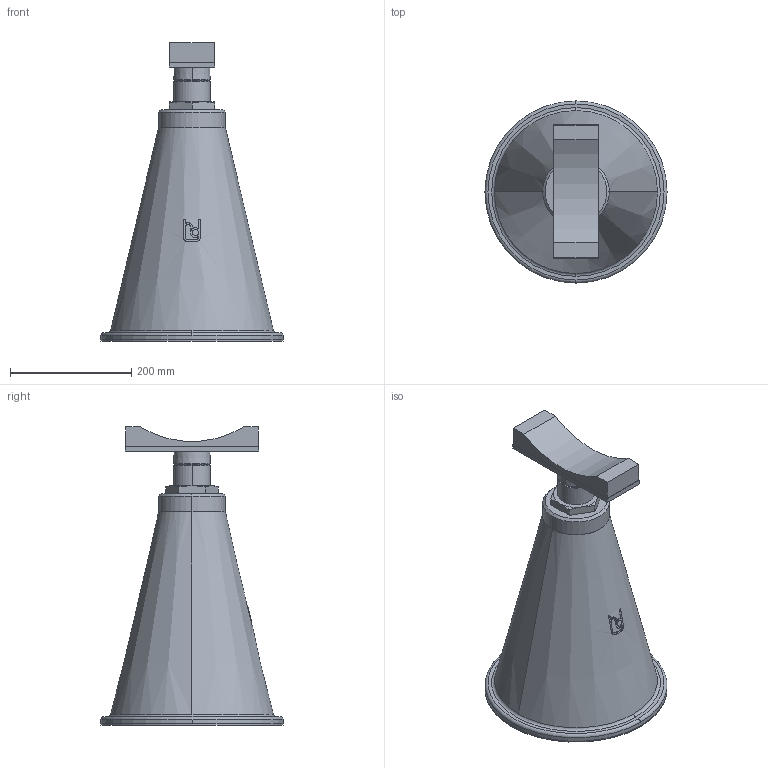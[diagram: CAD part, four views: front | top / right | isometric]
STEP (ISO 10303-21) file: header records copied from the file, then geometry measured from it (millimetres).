
FILE_DESCRIPTION(('STEP AP214'),'1');
FILE_NAME('RSRFB_DN300.stp','2018-06-26T07:31:52',(' '),(' '),'Spatial InterOp 3D',' ',' ');
FILE_SCHEMA(('automotive_design'));
Length unit declared in the file: millimetre
Products named in the file (6): 1; 2; 5; 6; 3; 4
Bounding box: 300 x 300 x 491.12 mm (x, y, z)
Volume: 12633770.3 mm3; surface area: 628083.2 mm2
Topology: 6 solids, 7 shells, 118 faces, 278 edges, 178 vertices
Faces by surface type: plane 51, cylinder 34, cone 25, torus 8
Entity records: 4730 total; most frequent: CARTESIAN_POINT 931, DIRECTION 589, ORIENTED_EDGE 556, EDGE_CURVE 278, AXIS2_PLACEMENT_3D 228, VERTEX_POINT 178, LINE 133, VECTOR 133
